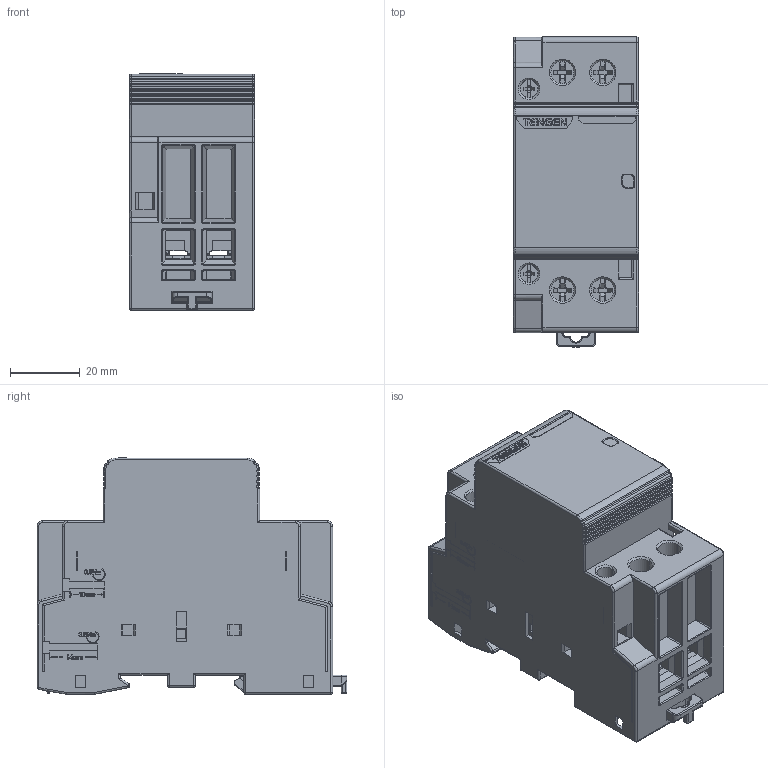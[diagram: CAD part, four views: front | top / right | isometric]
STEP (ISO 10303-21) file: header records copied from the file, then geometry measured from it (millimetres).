
FILE_DESCRIPTION((''),'2;1');
FILE_NAME('2TZD_401_6001_SW0001','2022-05-18T',('zhaoqingqing'),(''),'PRO/ENGINEER BY PARAMETRIC TECHNOLOGY CORPORATION, 2017170','PRO/ENGINEER BY PARAMETRIC TECHNOLOGY CORPORATION, 2017170','');
FILE_SCHEMA(('CONFIG_CONTROL_DESIGN'));
Products named in the file (1): 2TZD_401_6001_SW0001
Bounding box: 36 x 89.1 x 68.05 mm (x, y, z)
Volume: 55329.3 mm3; surface area: 79038.9 mm2
Topology: 13 solids, 13 shells, 4360 faces, 11657 edges, 7349 vertices
Faces by surface type: plane 2660, cylinder 1105, torus 254, sphere 129, bspline 87, extrusion 73, cone 52
Entity records: 144844 total; most frequent: CARTESIAN_POINT 36323, ORIENTED_EDGE 23314, DIRECTION 21585, EDGE_CURVE 11657, VECTOR 8701, LINE 8628, VERTEX_POINT 7349, AXIS2_PLACEMENT_3D 6442
